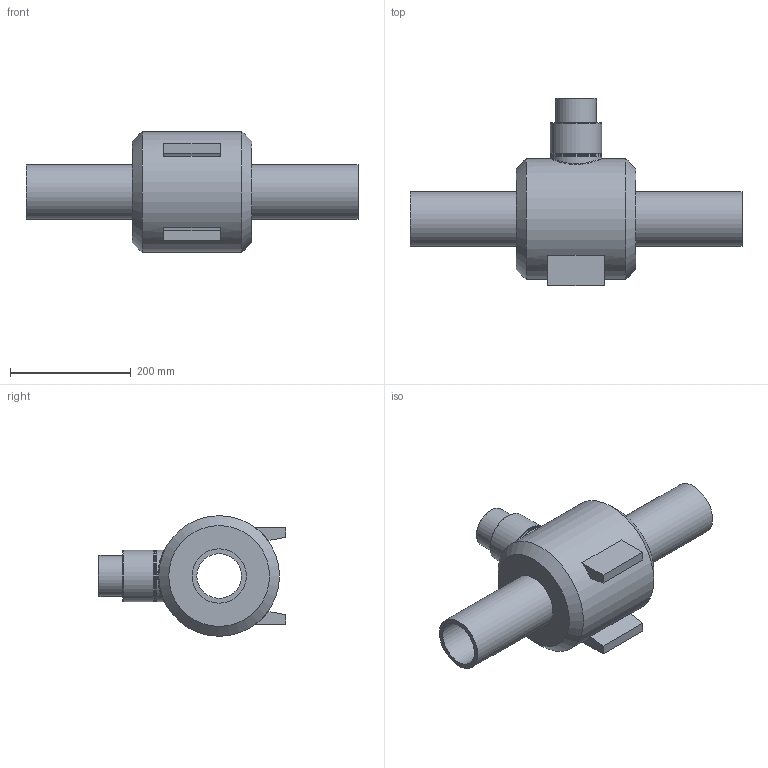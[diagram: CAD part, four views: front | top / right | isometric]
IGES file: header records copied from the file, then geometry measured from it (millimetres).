
Global section: file name: 436207090.ipt; native system: Autodesk Inventor 2015; preprocessor: unknown; author: Кирилл,,11,0; organization: 20170828.110610; date: 20171106.093341; units: millimetre
Bounding box: 550 x 310 x 200 mm (x, y, z)
Volume: 5811496.4 mm3; surface area: 455958.8 mm2
Topology: 1 solids, 1 shells, 33 faces, 81 edges, 54 vertices
Faces by surface type: plane 16, cylinder 7, cone 4, revolution 4, bspline 2
Full cylindrical faces by diameter (mm): 68 x1, 85 x3, 90 x2, 200 x1
